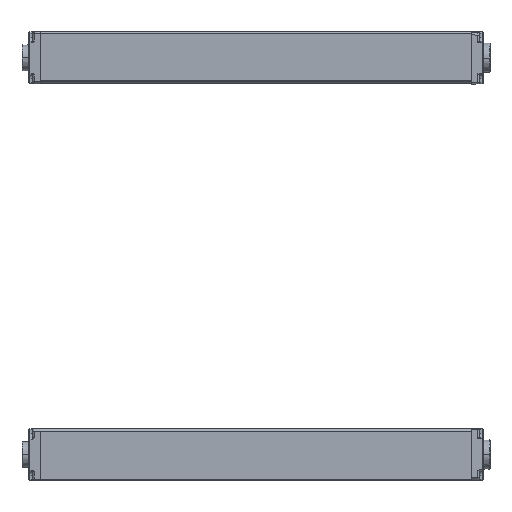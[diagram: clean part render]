
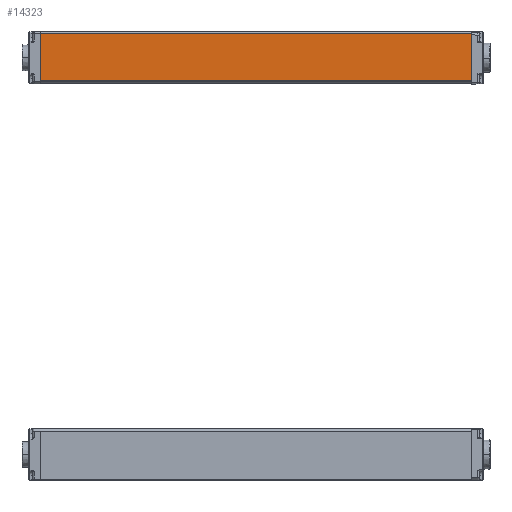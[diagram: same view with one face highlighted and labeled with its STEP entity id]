
A CAD part, left-side view. The second image highlights one B-rep face of the part: STEP entity #14323.
In plain terms, the highlighted planar face has unit normal (-1, 0, -0.009) as drawn and (-1, 0, 0) by its records, which use the part's own axes.
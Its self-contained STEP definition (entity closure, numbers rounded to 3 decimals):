
#1124 = VECTOR ( 'NONE', #4057, 1000. ) ;
#1325 = LINE ( 'NONE', #6885, #3696 ) ;
#1453 = EDGE_CURVE ( 'NONE', #7785, #1568, #11033, .T. ) ;
#1568 = VERTEX_POINT ( 'NONE', #3233 ) ;
#2365 = EDGE_LOOP ( 'NONE', ( #11815, #9718, #15514, #8099 ) ) ;
#2776 = CARTESIAN_POINT ( 'NONE',  ( -15., 0., -16.9 ) ) ;
#3233 = CARTESIAN_POINT ( 'NONE',  ( -15., 0., 10.9 ) ) ;
#3696 = VECTOR ( 'NONE', #12493, 1000. ) ;
#3778 = CARTESIAN_POINT ( 'NONE',  ( -15., 250., -16.9 ) ) ;
#4057 = DIRECTION ( 'NONE',  ( 0., -1., 0. ) ) ;
#4954 = AXIS2_PLACEMENT_3D ( 'NONE', #3778, #9373, #14907 ) ;
#5997 = VECTOR ( 'NONE', #8355, 1000. ) ;
#6416 = CARTESIAN_POINT ( 'NONE',  ( -15., 250., -16.9 ) ) ;
#6579 = EDGE_CURVE ( 'NONE', #13605, #7785, #14725, .T. ) ;
#6885 = CARTESIAN_POINT ( 'NONE',  ( -15., 250., -16.693 ) ) ;
#7785 = VERTEX_POINT ( 'NONE', #8036 ) ;
#8036 = CARTESIAN_POINT ( 'NONE',  ( -15., 250., 10.9 ) ) ;
#8099 = ORIENTED_EDGE ( 'NONE', *, *, #1453, .F. ) ;
#8271 = EDGE_CURVE ( 'NONE', #13605, #9715, #1325, .T. ) ;
#8286 = EDGE_CURVE ( 'NONE', #9715, #1568, #15269, .T. ) ;
#8355 = DIRECTION ( 'NONE',  ( 0., 0., 1. ) ) ;
#9373 = DIRECTION ( 'NONE',  ( 1., 0., 0. ) ) ;
#9715 = VERTEX_POINT ( 'NONE', #17104 ) ;
#9718 = ORIENTED_EDGE ( 'NONE', *, *, #8271, .T. ) ;
#10747 = FACE_OUTER_BOUND ( 'NONE', #2365, .T. ) ;
#11033 = LINE ( 'NONE', #16559, #1124 ) ;
#11815 = ORIENTED_EDGE ( 'NONE', *, *, #6579, .F. ) ;
#12034 = DIRECTION ( 'NONE',  ( 0., 0., 1. ) ) ;
#12493 = DIRECTION ( 'NONE',  ( 0., -1., 0. ) ) ;
#13605 = VERTEX_POINT ( 'NONE', #16835 ) ;
#14323 = ADVANCED_FACE ( 'NONE', ( #10747 ), #16265, .F. ) ;
#14725 = LINE ( 'NONE', #6416, #16761 ) ;
#14907 = DIRECTION ( 'NONE',  ( 0., 0., -1. ) ) ;
#15269 = LINE ( 'NONE', #2776, #5997 ) ;
#15514 = ORIENTED_EDGE ( 'NONE', *, *, #8286, .T. ) ;
#16265 = PLANE ( 'NONE',  #4954 ) ;
#16559 = CARTESIAN_POINT ( 'NONE',  ( -15., 250., 10.9 ) ) ;
#16761 = VECTOR ( 'NONE', #12034, 1000. ) ;
#16835 = CARTESIAN_POINT ( 'NONE',  ( -15., 250., -16.693 ) ) ;
#17104 = CARTESIAN_POINT ( 'NONE',  ( -15., 0., -16.693 ) ) ;
